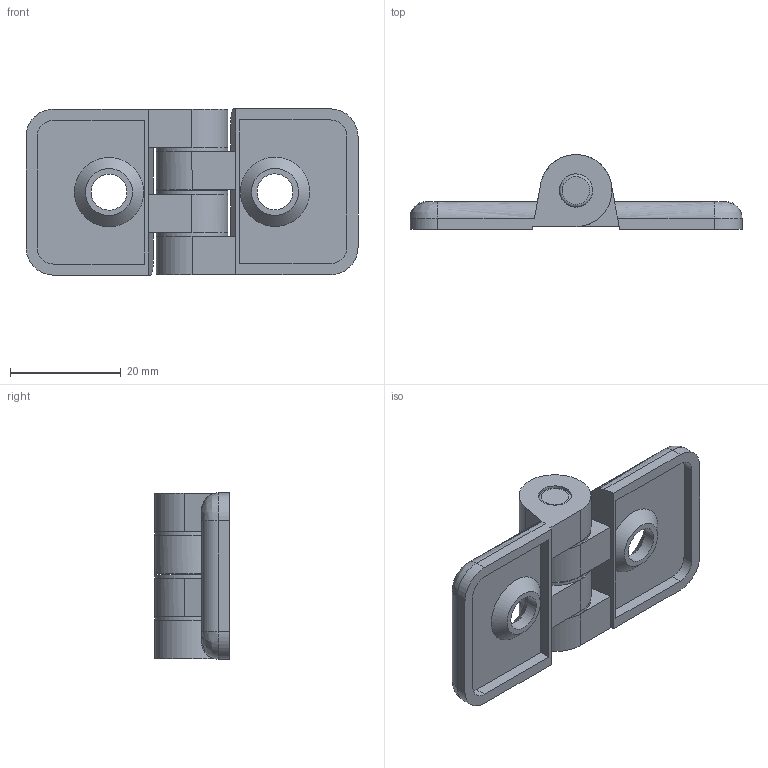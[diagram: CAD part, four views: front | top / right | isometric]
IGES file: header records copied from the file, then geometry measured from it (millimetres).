
Global section: file name: DR_HC3060; native system: Autodesk Inventor 2015; preprocessor: unknown; author: CH.J; date: 20180810.175807; units: millimetre
Bounding box: 60 x 13.48 x 30.05 mm (x, y, z)
Volume: 8520.6 mm3; surface area: 7716.4 mm2
Topology: 6 solids, 6 shells, 91 faces, 215 edges, 140 vertices
Faces by surface type: bspline 91
